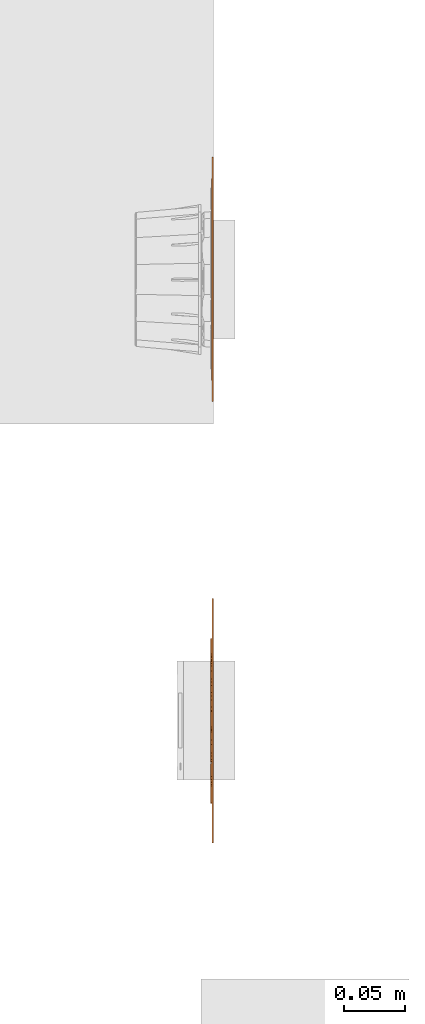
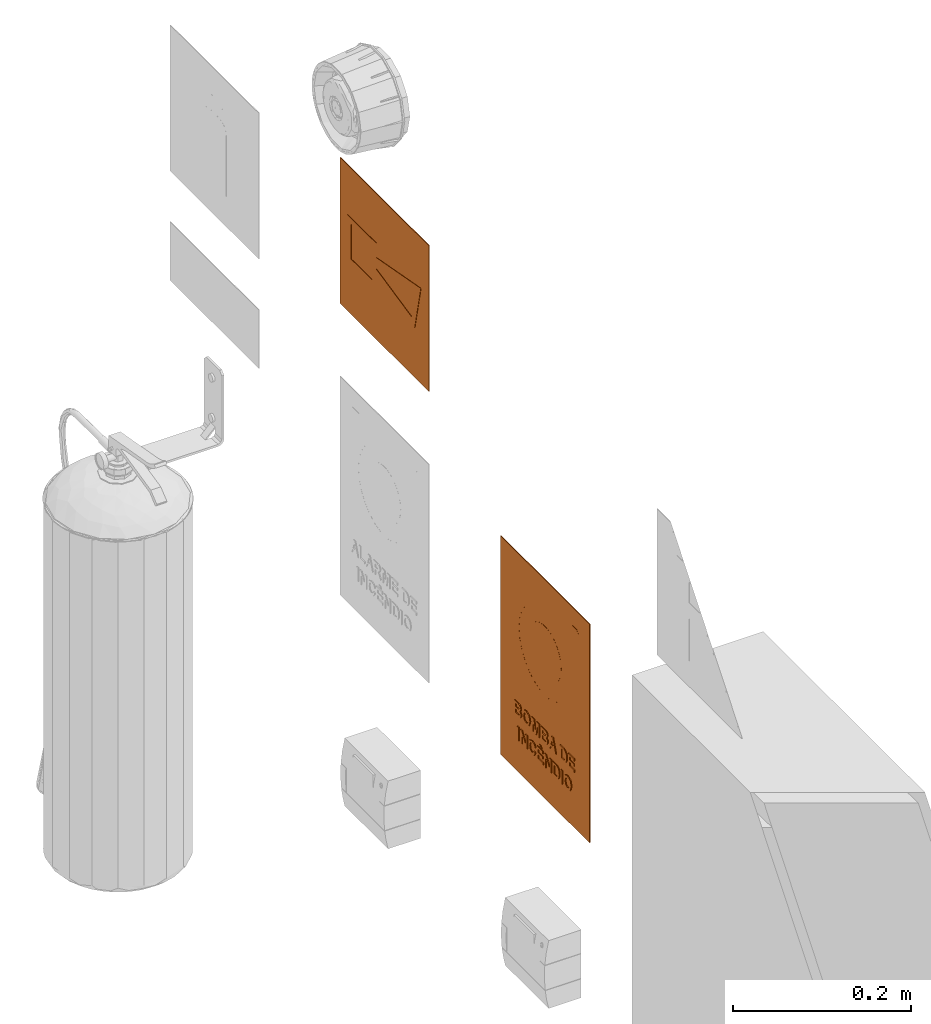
# One storey, part 62 of 119: 2 proxies.
"""IFC2X3 building model written with IfcOpenShell, lengths in metres."""

from ifc_helpers import new_model, entity, si_unit, converted_unit, derived_unit, direction, frame, frame_2d, origin, origin_2d_with_axis, place, context, subcontext, project, spatial, polyline, circle_curve, parameter, trimmed, segment, composite_curve, rectangle, circle, outline, extrude, source, transform, mapped, material, material_list, type_object, type_shapes, element, save


model = new_model("IFC2X3")

# Units and contexts
model_context = context("Model", 3, precision=1e-05, world=origin(), true_north=direction((6.12303176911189e-17, 1.0)))
body_context = subcontext(model_context, "Body", "Model", "MODEL_VIEW")
ifc_project = project(units=[si_unit("LENGTHUNIT", "METRE"), si_unit("AREAUNIT", "SQUARE_METRE"), si_unit("VOLUMEUNIT", "CUBIC_METRE"), converted_unit("PLANEANGLEUNIT", "DEGREE", entity("IfcRatioMeasure", 0.0174532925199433), si_unit("PLANEANGLEUNIT", "RADIAN"), dimensions=[0, 0, 0, 0, 0, 0, 0]), si_unit("MASSUNIT", "GRAM", prefix="KILO"), derived_unit("MASSDENSITYUNIT", [(si_unit("MASSUNIT", "GRAM", prefix="KILO"), 1), (si_unit("LENGTHUNIT", "METRE"), -3)]), derived_unit("MOMENTOFINERTIAUNIT", [(si_unit("LENGTHUNIT", "METRE"), 4)]), si_unit("TIMEUNIT", "SECOND"), si_unit("FREQUENCYUNIT", "HERTZ"), si_unit("THERMODYNAMICTEMPERATUREUNIT", "DEGREE_CELSIUS"), derived_unit("THERMALTRANSMITTANCEUNIT", [(si_unit("MASSUNIT", "GRAM", prefix="KILO"), 1), (si_unit("THERMODYNAMICTEMPERATUREUNIT", "KELVIN"), -1), (si_unit("TIMEUNIT", "SECOND"), -3)]), derived_unit("VOLUMETRICFLOWRATEUNIT", [(si_unit("LENGTHUNIT", "METRE"), 3), (si_unit("TIMEUNIT", "SECOND"), -1)]), si_unit("ELECTRICCURRENTUNIT", "AMPERE"), si_unit("ELECTRICVOLTAGEUNIT", "VOLT"), si_unit("POWERUNIT", "WATT"), si_unit("FORCEUNIT", "NEWTON", prefix="KILO"), si_unit("ILLUMINANCEUNIT", "LUX"), si_unit("LUMINOUSFLUXUNIT", "LUMEN"), si_unit("LUMINOUSINTENSITYUNIT", "CANDELA"), derived_unit("USERDEFINED", [(si_unit("MASSUNIT", "GRAM", prefix="KILO"), -1), (si_unit("LENGTHUNIT", "METRE"), -2), (si_unit("TIMEUNIT", "SECOND"), 3), (si_unit("LUMINOUSFLUXUNIT", "LUMEN"), 1)]), derived_unit("LINEARVELOCITYUNIT", [(si_unit("LENGTHUNIT", "METRE"), 1), (si_unit("TIMEUNIT", "SECOND"), -1)]), si_unit("PRESSUREUNIT", "PASCAL"), derived_unit("USERDEFINED", [(si_unit("LENGTHUNIT", "METRE"), -2), (si_unit("MASSUNIT", "GRAM", prefix="KILO"), 1), (si_unit("TIMEUNIT", "SECOND"), -2)]), derived_unit("LINEARFORCEUNIT", [(si_unit("MASSUNIT", "GRAM", prefix="KILO"), 1), (si_unit("LENGTHUNIT", "METRE"), 1), (si_unit("TIMEUNIT", "SECOND"), -2), (si_unit("LENGTHUNIT", "METRE"), -1)]), derived_unit("PLANARFORCEUNIT", [(si_unit("MASSUNIT", "GRAM", prefix="KILO"), 1), (si_unit("LENGTHUNIT", "METRE"), 1), (si_unit("TIMEUNIT", "SECOND"), -2), (si_unit("LENGTHUNIT", "METRE"), -2)])], contexts=[model_context])

# Site, building, storey
site_placement = place(None, origin())
site = spatial("IfcSite", under=ifc_project, at=site_placement, Name="Default", CompositionType="ELEMENT")
building_placement = place(site_placement, origin())
building = spatial("IfcBuilding", under=site, at=building_placement, CompositionType="ELEMENT")
storey_placement = place(building_placement, origin())
storey = spatial("IfcBuildingStorey", under=building, at=storey_placement, Name="PAV. 01 - TÉRREO", CompositionType="ELEMENT", Elevation=0.0)

# Proxies
ifc_material_1 = material(Name="Plastico branco")
ifc_material_2 = material(Name="Plastico vermelho")
ifc_material_list_1 = material_list([ifc_material_1, ifc_material_2])
building_element_proxy_type_1 = type_object("IfcBuildingElementProxyType", Name="Sinalização de equipamentos - E03 - Comando manual de alarme ou bomba de incêndio:Distância 08m", PredefinedType="NOTDEFINED", material=ifc_material_1)
shared_shape_1 = source(origin(), body_context, "Body", "SweptSolid", [
    extrude(outline(polyline([(-0.0108486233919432, -0.00904349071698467), (-0.00328343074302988, -0.00904349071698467), (6.49098100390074e-05, -0.00886064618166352), (0.00203963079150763, -0.008094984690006), (0.0034909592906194, -0.0065453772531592), (0.00407149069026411, -0.00437638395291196), (0.00337896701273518, -0.00199026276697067), (0.00149795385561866, -0.00035837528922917), (0.00383836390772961, 0.00130550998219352), (0.00465659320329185, 0.00407103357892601), (0.00406920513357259, 0.0065051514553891), (0.00246474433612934, 0.00839302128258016), (-4.25113544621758e-05, 0.00926381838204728), (-0.00454962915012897, 0.00938723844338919), (-0.0108486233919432, 0.00938723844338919), (-0.0108486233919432, -0.00904349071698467)]), holes=[polyline([(-0.00733800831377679, -0.00582542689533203), (-0.00733800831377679, -0.00172970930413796), (-0.00465933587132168, -0.00172970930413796), (-0.00168811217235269, -0.00178913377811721), (-4.02257977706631e-05, -0.00242451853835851), (-0.00149612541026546, -0.00576600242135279), (-0.00498845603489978, -0.00582542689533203), (-0.00733800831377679, -0.00582542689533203)]), polyline([(-0.00733800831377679, 0.00148835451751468), (-0.00733800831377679, 0.00616917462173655), (-0.00362626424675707, 0.00616917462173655), (-0.000874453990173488, 0.0060594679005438), (0.000583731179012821, 0.00536237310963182), (0.00114597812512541, 0.00387447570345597), (-0.00409708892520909, 0.00148835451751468), (-0.00733800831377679, 0.00148835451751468)])]), frame((-0.0562918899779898, -0.0022123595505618, 1.53648594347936), z_axis=(0.0, 1.0, 0.0), x_axis=(1.0, 0.0, 0.0)), (0.0, 0.0, 1.0), 0.0022123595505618),
    extrude(outline(polyline([(-0.00274131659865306, -0.00723537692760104), (0.00204807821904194, -0.00723537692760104), (0.00482213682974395, -0.00601174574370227), (0.00685816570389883, -0.00399502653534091), (0.00824841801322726, -0.000275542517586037), (0.00687087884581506, 0.00646330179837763), (0.00038103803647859, 0.0100380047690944), (-0.00689652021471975, 0.00889649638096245), (-0.0104736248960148, 0.00305448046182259), (-0.00911725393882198, -0.00369921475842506), (-0.00274131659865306, -0.00723537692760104)]), holes=[polyline([(-0.00200878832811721, -0.00379965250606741), (-0.00638392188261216, -0.00151705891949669), (-0.0073047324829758, 0.00249405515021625), (-0.00508828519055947, 0.00593636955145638), (-0.000139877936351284, 0.00656516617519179), (0.00422261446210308, 0.00434280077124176), (0.00508584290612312, 0.000320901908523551), (0.00288428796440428, -0.00318203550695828), (-0.00200878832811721, -0.00379965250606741)])]), frame((-0.0416947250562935, -0.0022123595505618, 1.53764997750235), z_axis=(0.0, 1.0, 0.0), x_axis=(0.172750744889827, 0.0, 0.984965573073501)), (0.0, 0.0, 1.0), 0.0022123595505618),
    extrude(outline(polyline([(-0.00835388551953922, -0.00892316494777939), (0.0100768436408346, -0.00892316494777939), (0.0100768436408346, -0.00290757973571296), (-0.00249371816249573, -3.51624106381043e-07), (0.0100768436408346, 0.0029068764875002), (0.0100768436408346, 0.00892246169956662), (-0.00835388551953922, 0.00892246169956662), (-0.00835388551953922, 0.0054118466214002), (0.00615482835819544, 0.00526557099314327), (-0.00835388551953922, 0.00205664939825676), (-0.00835388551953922, -0.00205278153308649), (0.00615482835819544, -0.00526627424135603), (-0.00835388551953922, -0.00541254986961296), (-0.00835388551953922, -0.00892316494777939)])), frame((-0.0198931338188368, -0.0022123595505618, 1.53545259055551), z_axis=(0.0, 1.0, 0.0), x_axis=(0.0, 0.0, 1.0)), (0.0, 0.0, 1.0), 0.0022123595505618),
    extrude(outline(polyline([(-0.0108486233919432, -0.00904349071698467), (-0.00328343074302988, -0.00904349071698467), (6.49098100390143e-05, -0.00886064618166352), (0.00203963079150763, -0.008094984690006), (0.00349095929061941, -0.0065453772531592), (0.00407149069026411, -0.00437638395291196), (0.00337896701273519, -0.00199026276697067), (0.00149795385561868, -0.00035837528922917), (0.00383836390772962, 0.00130550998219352), (0.00465659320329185, 0.00407103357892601), (0.00406920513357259, 0.0065051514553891), (0.00246474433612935, 0.00839302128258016), (-4.25113544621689e-05, 0.00926381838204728), (-0.00454962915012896, 0.00938723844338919), (-0.0108486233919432, 0.00938723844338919), (-0.0108486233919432, -0.00904349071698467)]), holes=[polyline([(-0.00733800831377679, -0.00582542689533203), (-0.00733800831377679, -0.00172970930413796), (-0.00465933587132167, -0.00172970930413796), (-0.00168811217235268, -0.00178913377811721), (-4.02257977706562e-05, -0.00242451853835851), (-0.00149612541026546, -0.00576600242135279), (-0.00498845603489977, -0.00582542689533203), (-0.00733800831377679, -0.00582542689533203)]), polyline([(-0.00733800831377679, 0.00148835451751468), (-0.00733800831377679, 0.00616917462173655), (-0.00362626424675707, 0.00616917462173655), (-0.00087445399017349, 0.0060594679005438), (0.000583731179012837, 0.00536237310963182), (0.00114597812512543, 0.00387447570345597), (-0.00409708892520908, 0.00148835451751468), (-0.00733800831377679, 0.00148835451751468)])]), frame((0.00338856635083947, -0.0022123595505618, 1.53648594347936), z_axis=(0.0, 1.0, 0.0), x_axis=(1.0, 0.0, 0.0)), (0.0, 0.0, 1.0), 0.0022123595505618),
    extrude(outline(polyline([(-0.00862797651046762, -0.00563161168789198), (-0.00493908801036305, -0.00563161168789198), (-0.00349461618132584, -0.00153589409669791), (0.00346718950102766, -0.00153589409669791), (0.00489337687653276, -0.00563161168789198), (0.00863254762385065, -0.00563161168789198), (0.00190386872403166, 0.0127991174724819), (-0.00183530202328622, 0.0127991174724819), (-0.00862797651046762, -0.00563161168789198)]), holes=[polyline([(-0.00237012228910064, 0.00168216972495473), (2.28555669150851e-06, 0.00841084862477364), (0.00234269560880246, 0.00168216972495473), (-0.00237012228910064, 0.00168216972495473)])]), frame((0.0178479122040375, -0.0022123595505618, 1.53273031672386), z_axis=(0.0, 1.0, 0.0), x_axis=(-1.0, 0.0, 0.0)), (0.0, 0.0, 1.0), 0.0022123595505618),
    extrude(outline(polyline([(-0.00963237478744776, -0.00923822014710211), (-0.00280770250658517, -0.00923822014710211), (0.000712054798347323, -0.00888624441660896), (0.00350043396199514, -0.00718807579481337), (0.00526716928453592, -0.00420313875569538), (0.00587284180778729, 0.000155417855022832), (0.00530602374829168, 0.00407743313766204), (0.003322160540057, 0.00733206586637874), (0.000698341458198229, 0.00880396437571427), (-0.00260657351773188, 0.00919250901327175), (-0.00963237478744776, 0.00919250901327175), (-0.00963237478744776, -0.00923822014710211)]), holes=[polyline([(-0.00612175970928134, -0.00602015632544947), (-0.00612175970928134, 0.00597444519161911), (-0.00313225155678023, 0.00597444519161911), (-0.000709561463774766, 0.00580074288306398), (0.000906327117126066, 0.00504879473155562), (0.00195539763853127, 0.00330034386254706), (0.00236222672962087, -1.82844535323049e-05), (0.00195539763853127, -0.00324091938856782), (0.000819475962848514, -0.00499622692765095), (-0.00103411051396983, -0.00584645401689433), (-0.00432074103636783, -0.00602015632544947), (-0.00612175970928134, -0.00602015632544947)])]), frame((0.0448848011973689, -0.0022123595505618, 1.53629121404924), z_axis=(0.0, 1.0, 0.0), x_axis=(1.0, 0.0, 0.0)), (0.0, 0.0, 1.0), 0.0022123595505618),
    extrude(outline(polyline([(-0.00931288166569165, -0.00799640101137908), (0.00911784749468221, -0.00799640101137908), (0.00911784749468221, 0.00575350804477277), (0.00589978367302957, 0.00575350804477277), (0.00589978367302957, -0.00448578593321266), (0.0018040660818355, -0.00448578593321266), (0.0018040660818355, 0.00516840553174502), (-0.00141399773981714, 0.00516840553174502), (-0.00141399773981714, -0.00448578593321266), (-0.00609481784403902, -0.00448578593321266), (-0.00609481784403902, 0.00604605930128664), (-0.00931288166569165, 0.00604605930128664), (-0.00931288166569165, -0.00799640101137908)])), frame((0.061679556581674, -0.0022123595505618, 1.53641158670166), z_axis=(0.0, 1.0, 0.0), x_axis=(0.0, 0.0, 1.0)), (0.0, 0.0, 1.0), 0.0022123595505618),
    extrude(rectangle(XDim=0.0022123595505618, YDim=0.00351061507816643, at=frame_2d((0.0, -4.22838847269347e-18), x_axis=(1.0, 0.0))), frame((-0.0588028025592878, -0.0011061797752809, 1.49460223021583), z_axis=(0.0, 0.0, 1.0), x_axis=(0.0, 1.0, 0.0)), (0.0, 0.0, 1.0), 0.0184307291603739),
    extrude(outline(polyline([(-0.00919708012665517, -0.00744862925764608), (0.00923364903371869, -0.00744862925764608), (0.00923364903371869, -0.00376888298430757), (-0.00317235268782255, 0.00396086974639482), (0.00923364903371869, 0.00396086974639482), (0.00923364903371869, 0.00747148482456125), (-0.00919708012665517, 0.00747148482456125), (-0.00919708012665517, 0.00367746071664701), (0.00302607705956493, -0.00393801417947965), (-0.00919708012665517, -0.00393801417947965), (-0.00919708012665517, -0.00744862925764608)])), frame((-0.046088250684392, -0.0022123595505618, 1.50379931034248), z_axis=(0.0, 1.0, 0.0), x_axis=(0.0, 0.0, 1.0)), (0.0, 0.0, 1.0), 0.0022123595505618),
    extrude(outline(polyline([(0.00431987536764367, 0.00106265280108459), (0.0080203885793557, 0.00106265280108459), (0.00679097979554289, 0.00611977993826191), (0.0025895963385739, 0.00904043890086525), (-0.00392677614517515, 0.00861545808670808), (-0.00830378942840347, 0.00297217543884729), (-0.00825825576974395, -0.00444402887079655), (-0.00308837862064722, -0.00880297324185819), (0.00280208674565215, -0.00859337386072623), (0.0057075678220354, -0.00587580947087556), (0.00256213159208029, -0.004210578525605), (0.000503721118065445, -0.0057818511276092), (-0.00230057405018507, -0.00567343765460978), (-0.00522195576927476, -0.00319871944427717), (-0.00505861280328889, 0.00160616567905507), (-0.0022796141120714, 0.00575840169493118), (0.00144185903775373, 0.00603088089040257), (0.00369975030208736, 0.00431216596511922), (0.00431987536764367, 0.00106265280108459)])), frame((-0.0268737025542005, -0.0022123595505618, 1.50399764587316), z_axis=(0.0, 1.0, 0.0), x_axis=(0.948683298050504, 0.0, -0.316227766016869)), (0.0, 0.0, 1.0), 0.0022123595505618),
    extrude(outline(polyline([(-0.00931288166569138, -0.00799640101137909), (0.00911784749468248, -0.00799640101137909), (0.00911784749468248, 0.00575350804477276), (0.00589978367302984, 0.00575350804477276), (0.00589978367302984, -0.00448578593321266), (0.00180406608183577, -0.00448578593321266), (0.00180406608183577, 0.00516840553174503), (-0.00141399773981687, 0.00516840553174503), (-0.00141399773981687, -0.00448578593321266), (-0.00609481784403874, -0.00448578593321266), (-0.00609481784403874, 0.00604605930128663), (-0.00931288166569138, 0.00604605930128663), (-0.00931288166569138, -0.00799640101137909)])), frame((-0.00867902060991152, -0.0022123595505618, 1.50391511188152), z_axis=(0.0, 1.0, 0.0), x_axis=(0.0, 0.0, 1.0)), (0.0, 0.0, 1.0), 0.0022123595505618),
    extrude(outline(polyline([(-0.00919708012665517, -0.00744862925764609), (0.00923364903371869, -0.00744862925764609), (0.00923364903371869, -0.00376888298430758), (-0.00317235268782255, 0.00396086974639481), (0.00923364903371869, 0.00396086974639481), (0.00923364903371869, 0.00747148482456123), (-0.00919708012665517, 0.00747148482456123), (-0.00919708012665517, 0.003677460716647), (0.00302607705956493, -0.00393801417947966), (-0.00919708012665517, -0.00393801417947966), (-0.00919708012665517, -0.00744862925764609)])), frame((0.00774118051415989, -0.0022123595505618, 1.50379931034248), z_axis=(0.0, 1.0, 0.0), x_axis=(0.0, 0.0, 1.0)), (0.0, 0.0, 1.0), 0.0022123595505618),
    extrude(outline(polyline([(-0.00963237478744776, -0.00923822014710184), (-0.00280770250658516, -0.00923822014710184), (0.000712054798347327, -0.00888624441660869), (0.00350043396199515, -0.00718807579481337), (0.00526716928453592, -0.00420313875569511), (0.0058728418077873, 0.000155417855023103), (0.00530602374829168, 0.00407743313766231), (0.003322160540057, 0.00733206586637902), (0.000698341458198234, 0.00880396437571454), (-0.00260657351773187, 0.00919250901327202), (-0.00963237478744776, 0.00919250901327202), (-0.00963237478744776, -0.00923822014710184)]), holes=[polyline([(-0.00612175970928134, -0.0060201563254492), (-0.00612175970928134, 0.00597444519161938), (-0.00313225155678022, 0.00597444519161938), (-0.000709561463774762, 0.00580074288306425), (0.00090632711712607, 0.00504879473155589), (0.00195539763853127, 0.00330034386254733), (0.00236222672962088, -1.82844535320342e-05), (0.00195539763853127, -0.00324091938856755), (0.000819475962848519, -0.00499622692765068), (-0.00103411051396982, -0.00584645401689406), (-0.00432074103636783, -0.0060201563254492), (-0.00612175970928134, -0.0060201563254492)])]), frame((0.0283556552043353, -0.0022123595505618, 1.5037947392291), z_axis=(0.0, 1.0, 0.0), x_axis=(1.0, 0.0, 0.0)), (0.0, 0.0, 1.0), 0.0022123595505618),
    extrude(rectangle(XDim=0.0022123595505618, YDim=0.00351061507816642, at=origin_2d_with_axis()), frame((0.0389093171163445, -0.0011061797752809, 1.49460223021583), z_axis=(0.0, 0.0, 1.0), x_axis=(0.0, 1.0, 0.0)), (0.0, 0.0, 1.0), 0.0184307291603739),
    extrude(outline(polyline([(-0.0027413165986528, -0.0072353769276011), (0.0020480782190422, -0.0072353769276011), (0.00482213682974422, -0.00601174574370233), (0.00685816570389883, -0.00399502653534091), (0.00824841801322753, -0.000275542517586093), (0.00687087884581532, 0.00646330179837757), (0.000381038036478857, 0.0100380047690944), (-0.00689652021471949, 0.0088964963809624), (-0.0104736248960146, 0.00305448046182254), (-0.00911725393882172, -0.00369921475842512), (-0.0027413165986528, -0.0072353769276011)]), holes=[polyline([(-0.00200878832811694, -0.00379965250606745), (-0.00638392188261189, -0.00151705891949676), (-0.00730473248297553, 0.00249405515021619), (-0.00508828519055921, 0.00593636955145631), (-0.000139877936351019, 0.00656516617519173), (0.00422261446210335, 0.00434280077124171), (0.00508584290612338, 0.000320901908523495), (0.00288428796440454, -0.00318203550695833), (-0.00200878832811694, -0.00379965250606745)])]), frame((0.0511902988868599, -0.0022123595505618, 1.50515350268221), z_axis=(0.0, 1.0, 0.0), x_axis=(0.172750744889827, 0.0, 0.984965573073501)), (0.0, 0.0, 1.0), 0.0022123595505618),
    extrude(outline(polyline([(-0.00331762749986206, -0.00249092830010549), (0.000995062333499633, -0.00249092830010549), (0.00269430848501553, -0.00010950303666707), (0.00127033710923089, 0.00393891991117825), (-0.000258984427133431, 0.00179563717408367), (0.0004052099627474, -0.000295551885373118), (-0.00178830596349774, -0.00034764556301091), (-0.00331762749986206, -0.00249092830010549)])), frame((-0.00979524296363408, -0.0022123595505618, 1.51574950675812), z_axis=(0.0, 1.0, 0.0), x_axis=(0.580837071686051, 0.0, 0.814019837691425)), (0.0, 0.0, 1.0), 0.0022123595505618),
    extrude(circle(Radius=0.0367452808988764, at=frame_2d((-5.36303450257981e-23, -2.70716782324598e-16), x_axis=(1.0, 0.0))), frame((0.0, -0.0011, 1.64973853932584), z_axis=(0.0, 1.0, 0.0), x_axis=(1.0, 0.0, 0.0)), (0.0, 0.0, 1.0), 0.0011),
    extrude(outline(polyline([(-0.0713787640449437, -0.075200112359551), (0.0713787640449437, -0.075200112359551), (0.0752001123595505, -0.0713787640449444), (0.0752001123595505, 0.0713787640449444), (0.0713787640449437, 0.075200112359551), (-0.0713787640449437, 0.075200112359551), (-0.0752001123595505, 0.0713787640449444), (-0.0752001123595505, -0.0713787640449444), (-0.0713787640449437, -0.075200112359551)]), holes=[composite_curve([segment(trimmed(circle_curve(origin_2d_with_axis(), 0.0583057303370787), [parameter(180.0)], [parameter(360.0)], True, "PARAMETER"), False, "CONTINUOUS"), segment(trimmed(circle_curve(origin_2d_with_axis(), 0.0583057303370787), [parameter(0.0)], [parameter(180.0)], True, "PARAMETER"), False, "CONTINUOUS")], self_intersect=False)]), frame((0.0, -0.0011, 1.64973853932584), z_axis=(0.0, 1.0, 0.0), x_axis=(1.0, 0.0, 0.0)), (0.0, 0.0, 1.0), 0.0011),
    extrude(rectangle(XDim=0.001, YDim=0.179, at=origin_2d_with_axis()), frame((0.0, -0.0005, 1.4605), z_axis=(0.0, 0.0, 1.0), x_axis=(0.0, 1.0, 0.0)), (0.0, 0.0, 1.0), 0.279),
    extrude(outline(polyline([(-0.150000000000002, -0.1), (0.150000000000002, -0.1), (0.150000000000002, 0.1), (-0.150000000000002, 0.1), (-0.150000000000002, -0.1)]), holes=[polyline([(-0.139500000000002, -0.0895000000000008), (-0.139500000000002, 0.0894999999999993), (0.139499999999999, 0.0894999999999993), (0.139499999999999, -0.0895000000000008), (-0.139500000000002, -0.0895000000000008)])]), frame((0.0, -0.001, 1.6), z_axis=(0.0, 1.0, 0.0), x_axis=(0.0, 0.0, -1.0)), (0.0, 0.0, 1.0), 0.001),
])
type_shapes(building_element_proxy_type_1, [shared_shape_1])
proxy_1_placement = place(storey_placement, frame((48.3240605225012, 11.6947272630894, 0.0), z_axis=(0.0, 0.0, 1.0), x_axis=(0.0, -1.0, 0.0)))
element("IfcBuildingElementProxy", 1, at=proxy_1_placement, inside=storey, type_object=building_element_proxy_type_1, material=ifc_material_list_1, Name="Sinalização de equipamentos - E03 - Comando manual de alarme ou bomba de incêndio:Distância 08m", ObjectType="Sinalização de equipamentos - E03 - Comando manual de alarme ou bomba de incêndio:Distância 08m", context=body_context, shape_type="MappedRepresentation", body=[
    mapped(shared_shape_1, transform((0.0, 0.0, 0.0), scale=1.0)),
])
ifc_material_list_2 = material_list([ifc_material_1, ifc_material_2])
building_element_proxy_type_2 = type_object("IfcBuildingElementProxyType", Name="Sinalização de equipamentos - E01 - Alarme sonoro:Distância 08m", PredefinedType="NOTDEFINED", material=ifc_material_1)
shared_shape_2 = source(origin(), body_context, "Body", "SweptSolid", [
    extrude(outline(polyline([(-0.0323377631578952, -0.00693625), (-0.0323377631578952, -0.072205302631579), (0.0327805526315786, -0.072205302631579), (0.0327805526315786, -0.00693625), (0.0119600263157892, -0.00693625), (0.0308021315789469, 0.0792286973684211), (-0.0310376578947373, 0.0929269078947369), (-0.0126100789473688, -0.00693625), (-0.0323377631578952, -0.00693625)]), holes=[polyline([(-0.0238399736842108, -0.0163761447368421), (0.0237363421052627, -0.0163761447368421), (0.0237363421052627, -0.0634060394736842), (-0.0238399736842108, -0.0634060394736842), (-0.0238399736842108, -0.0163761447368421)]), polyline([(0.00317960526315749, -0.00693625), (-0.00394002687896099, -0.00693625), (-0.0201846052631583, 0.0816593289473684), (0.020533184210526, 0.0725020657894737), (0.00317960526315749, -0.00693625)])]), frame((-0.0103042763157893, -0.0015, 1.95018371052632), z_axis=(0.0, -1.0, 0.0), x_axis=(0.0, 0.0, -1.0)), (0.0, 0.0, -1.0), 0.0015),
    extrude(rectangle(XDim=0.001, YDim=0.179, at=origin_2d_with_axis()), frame((0.0, -0.0005, 1.8605), z_axis=(0.0, 0.0, 1.0), x_axis=(0.0, 1.0, 0.0)), (0.0, 0.0, 1.0), 0.179),
    extrude(outline(polyline([(-0.100000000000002, -0.1), (0.100000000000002, -0.1), (0.100000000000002, 0.1), (-0.100000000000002, 0.1), (-0.100000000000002, -0.1)]), holes=[polyline([(-0.0895000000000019, -0.0895000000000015), (-0.0895000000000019, 0.0894999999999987), (0.0894999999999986, 0.0894999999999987), (0.0894999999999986, -0.0895000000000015), (-0.0895000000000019, -0.0895000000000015)])]), frame((0.0, -0.001, 1.95), z_axis=(0.0, 1.0, 0.0), x_axis=(0.0, 0.0, -1.0)), (0.0, 0.0, 1.0), 0.001),
])
type_shapes(building_element_proxy_type_2, [shared_shape_2])
proxy_2_placement = place(storey_placement, frame((48.3240605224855, 12.0554865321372, 0.0), z_axis=(0.0, 0.0, 1.0), x_axis=(0.0, -1.0, 0.0)))
element("IfcBuildingElementProxy", 2, at=proxy_2_placement, inside=storey, type_object=building_element_proxy_type_2, material=ifc_material_list_2, Name="Sinalização de equipamentos - E01 - Alarme sonoro:Distância 08m", ObjectType="Sinalização de equipamentos - E01 - Alarme sonoro:Distância 08m", context=body_context, shape_type="MappedRepresentation", body=[
    mapped(shared_shape_2, transform((0.0, 0.0, 0.0), scale=1.0)),
])

save(model, "model.ifc")
